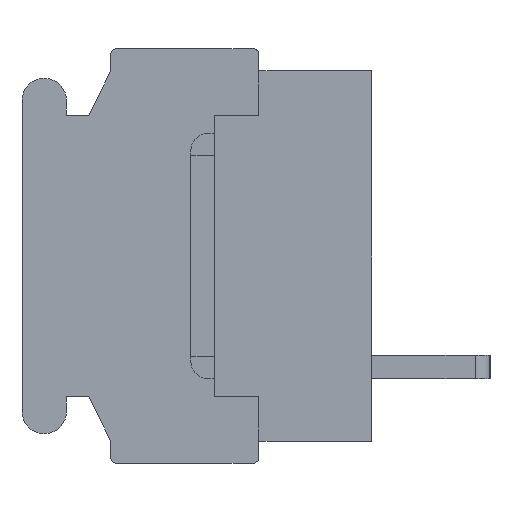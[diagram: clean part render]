
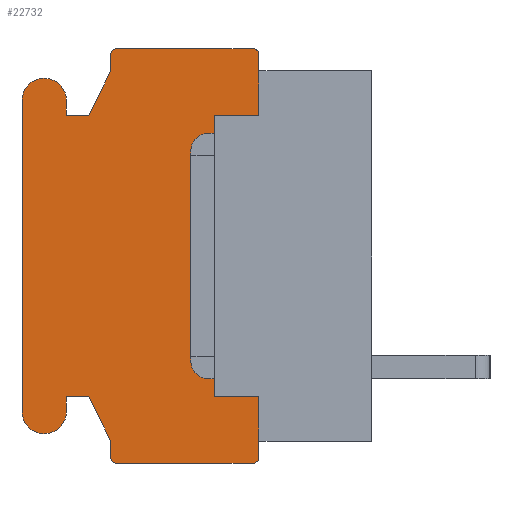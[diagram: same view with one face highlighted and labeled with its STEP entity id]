
A CAD part, left-side view. The second image highlights one B-rep face of the part: STEP entity #22732.
In plain terms, the highlighted planar face has unit normal (-1, 0, 0).
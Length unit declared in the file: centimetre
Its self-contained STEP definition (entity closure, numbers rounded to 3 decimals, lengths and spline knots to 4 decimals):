
#1341=PLANE('',#37308);
#2092=VECTOR('',#24094,1.);
#3489=VECTOR('',#27099,1.);
#3490=VECTOR('',#27100,1.);
#3491=VECTOR('',#27103,1.);
#3492=VECTOR('',#27106,1.);
#3493=VECTOR('',#27107,1.);
#3494=VECTOR('',#27108,1.);
#3495=VECTOR('',#27109,1.);
#3496=VECTOR('',#27112,1.);
#3497=VECTOR('',#27115,1.);
#3498=VECTOR('',#27116,1.);
#3499=VECTOR('',#27117,1.);
#3500=VECTOR('',#27118,1.);
#3501=VECTOR('',#27121,1.);
#3502=VECTOR('',#27124,1.);
#3503=VECTOR('',#27125,1.);
#3504=VECTOR('',#27126,1.);
#3505=VECTOR('',#27127,1.);
#4536=LINE('',#29910,#2092);
#5933=LINE('',#34334,#3489);
#5934=LINE('',#34336,#3490);
#5935=LINE('',#34340,#3491);
#5936=LINE('',#34344,#3492);
#5937=LINE('',#34346,#3493);
#5938=LINE('',#34348,#3494);
#5939=LINE('',#34350,#3495);
#5940=LINE('',#34354,#3496);
#5941=LINE('',#34358,#3497);
#5942=LINE('',#34360,#3498);
#5943=LINE('',#34362,#3499);
#5944=LINE('',#34364,#3500);
#5945=LINE('',#34368,#3501);
#5946=LINE('',#34372,#3502);
#5947=LINE('',#34373,#3503);
#5948=LINE('',#34375,#3504);
#5949=LINE('',#34376,#3505);
#6921=VERTEX_POINT('',#29911);
#6922=VERTEX_POINT('',#29912);
#7016=VERTEX_POINT('',#30175);
#7057=VERTEX_POINT('',#30262);
#8212=VERTEX_POINT('',#34335);
#8213=VERTEX_POINT('',#34337);
#8214=VERTEX_POINT('',#34339);
#8215=VERTEX_POINT('',#34341);
#8216=VERTEX_POINT('',#34343);
#8217=VERTEX_POINT('',#34345);
#8218=VERTEX_POINT('',#34347);
#8219=VERTEX_POINT('',#34349);
#8220=VERTEX_POINT('',#34351);
#8221=VERTEX_POINT('',#34353);
#8222=VERTEX_POINT('',#34355);
#8223=VERTEX_POINT('',#34357);
#8224=VERTEX_POINT('',#34359);
#8225=VERTEX_POINT('',#34361);
#8226=VERTEX_POINT('',#34363);
#8227=VERTEX_POINT('',#34365);
#8228=VERTEX_POINT('',#34367);
#8229=VERTEX_POINT('',#34369);
#8230=VERTEX_POINT('',#34371);
#8231=VERTEX_POINT('',#34374);
#9006=CIRCLE('',#37309,0.02);
#9007=CIRCLE('',#37310,0.02);
#9008=CIRCLE('',#37311,0.075);
#9009=CIRCLE('',#37312,0.075);
#9010=CIRCLE('',#37313,0.02);
#9011=CIRCLE('',#37314,0.02);
#9820=EDGE_CURVE('',#6921,#6922,#4536,.T.);
#11788=EDGE_CURVE('',#8212,#7016,#5933,.T.);
#11789=EDGE_CURVE('',#8213,#7016,#5934,.T.);
#11790=EDGE_CURVE('',#8214,#8213,#9006,.T.);
#11791=EDGE_CURVE('',#8215,#8214,#5935,.T.);
#11792=EDGE_CURVE('',#8216,#8215,#9007,.T.);
#11793=EDGE_CURVE('',#8217,#8216,#5936,.T.);
#11794=EDGE_CURVE('',#8218,#8217,#5937,.T.);
#11795=EDGE_CURVE('',#8219,#8218,#5938,.T.);
#11796=EDGE_CURVE('',#8220,#8219,#5939,.T.);
#11797=EDGE_CURVE('',#8221,#8220,#9008,.T.);
#11798=EDGE_CURVE('',#8222,#8221,#5940,.T.);
#11799=EDGE_CURVE('',#8223,#8222,#9009,.T.);
#11800=EDGE_CURVE('',#8224,#8223,#5941,.T.);
#11801=EDGE_CURVE('',#8225,#8224,#5942,.T.);
#11802=EDGE_CURVE('',#8226,#8225,#5943,.T.);
#11803=EDGE_CURVE('',#8227,#8226,#5944,.T.);
#11804=EDGE_CURVE('',#8228,#8227,#9010,.T.);
#11805=EDGE_CURVE('',#8229,#8228,#5945,.T.);
#11806=EDGE_CURVE('',#8230,#8229,#9011,.T.);
#11807=EDGE_CURVE('',#7057,#8230,#5946,.T.);
#11808=EDGE_CURVE('',#7057,#8231,#5947,.T.);
#11809=EDGE_CURVE('',#8231,#6921,#5948,.T.);
#11810=EDGE_CURVE('',#6922,#8212,#5949,.T.);
#17858=ORIENTED_EDGE('',*,*,#11788,.T.);
#17859=ORIENTED_EDGE('',*,*,#11789,.F.);
#17860=ORIENTED_EDGE('',*,*,#11790,.F.);
#17861=ORIENTED_EDGE('',*,*,#11791,.F.);
#17862=ORIENTED_EDGE('',*,*,#11792,.F.);
#17863=ORIENTED_EDGE('',*,*,#11793,.F.);
#17864=ORIENTED_EDGE('',*,*,#11794,.F.);
#17865=ORIENTED_EDGE('',*,*,#11795,.F.);
#17866=ORIENTED_EDGE('',*,*,#11796,.F.);
#17867=ORIENTED_EDGE('',*,*,#11797,.F.);
#17868=ORIENTED_EDGE('',*,*,#11798,.F.);
#17869=ORIENTED_EDGE('',*,*,#11799,.F.);
#17870=ORIENTED_EDGE('',*,*,#11800,.F.);
#17871=ORIENTED_EDGE('',*,*,#11801,.F.);
#17872=ORIENTED_EDGE('',*,*,#11802,.F.);
#17873=ORIENTED_EDGE('',*,*,#11803,.F.);
#17874=ORIENTED_EDGE('',*,*,#11804,.F.);
#17875=ORIENTED_EDGE('',*,*,#11805,.F.);
#17876=ORIENTED_EDGE('',*,*,#11806,.F.);
#17877=ORIENTED_EDGE('',*,*,#11807,.F.);
#17878=ORIENTED_EDGE('',*,*,#11808,.T.);
#17879=ORIENTED_EDGE('',*,*,#11809,.T.);
#17880=ORIENTED_EDGE('',*,*,#9820,.T.);
#17881=ORIENTED_EDGE('',*,*,#11810,.T.);
#20128=EDGE_LOOP('',(#17858,#17859,#17860,#17861,#17862,#17863,#17864,#17865,
#17866,#17867,#17868,#17869,#17870,#17871,#17872,#17873,#17874,#17875,#17876,
#17877,#17878,#17879,#17880,#17881));
#21472=FACE_BOUND('',#20128,.T.);
#22732=ADVANCED_FACE('',(#21472),#1341,.F.);
#24094=DIRECTION('',(0.,0.,1.));
#27098=DIRECTION('',(1.,0.,0.));
#27099=DIRECTION('',(0.,0.,1.));
#27100=DIRECTION('',(0.,0.,-1.));
#27101=DIRECTION('',(1.,0.,0.));
#27102=DIRECTION('',(0.,0.,-0.02));
#27103=DIRECTION('',(0.,-1.,0.));
#27104=DIRECTION('',(1.,0.,0.));
#27105=DIRECTION('',(0.,0.,-0.02));
#27106=DIRECTION('',(0.,0.,1.));
#27107=DIRECTION('',(0.,-0.447,0.894));
#27108=DIRECTION('',(0.,-1.,0.));
#27109=DIRECTION('',(0.,0.,-1.));
#27110=DIRECTION('',(1.,0.,0.));
#27111=DIRECTION('',(0.,0.,-0.075));
#27112=DIRECTION('',(0.,0.,1.));
#27113=DIRECTION('',(1.,0.,0.));
#27114=DIRECTION('',(0.,0.,-0.075));
#27115=DIRECTION('',(0.,0.,-1.));
#27116=DIRECTION('',(0.,1.,0.));
#27117=DIRECTION('',(0.,0.447,0.894));
#27118=DIRECTION('',(0.,0.,1.));
#27119=DIRECTION('',(1.,0.,0.));
#27120=DIRECTION('',(0.,0.,-0.02));
#27121=DIRECTION('',(0.,1.,0.));
#27122=DIRECTION('',(1.,0.,0.));
#27123=DIRECTION('',(0.,0.,-0.02));
#27124=DIRECTION('',(0.,0.,-1.));
#27125=DIRECTION('',(0.,0.,1.));
#27126=DIRECTION('',(0.,1.,0.));
#27127=DIRECTION('',(0.,-1.,0.));
#29910=CARTESIAN_POINT('',(-0.762,0.53,0.));
#29911=CARTESIAN_POINT('',(-0.762,0.53,-0.475));
#29912=CARTESIAN_POINT('',(-0.762,0.53,0.475));
#30175=CARTESIAN_POINT('',(-0.762,0.38,0.625));
#30262=CARTESIAN_POINT('',(-0.762,0.38,-0.625));
#34333=CARTESIAN_POINT('',(-0.762,0.6059,0.));
#34334=CARTESIAN_POINT('',(-0.762,0.38,0.275));
#34335=CARTESIAN_POINT('',(-0.762,0.38,0.475));
#34336=CARTESIAN_POINT('',(-0.762,0.38,0.68));
#34337=CARTESIAN_POINT('',(-0.762,0.38,0.68));
#34338=CARTESIAN_POINT('',(-0.762,0.4,0.68));
#34339=CARTESIAN_POINT('',(-0.762,0.4,0.7));
#34340=CARTESIAN_POINT('',(-0.762,0.86,0.7));
#34341=CARTESIAN_POINT('',(-0.762,0.86,0.7));
#34342=CARTESIAN_POINT('',(-0.762,0.86,0.68));
#34343=CARTESIAN_POINT('',(-0.762,0.88,0.68));
#34344=CARTESIAN_POINT('',(-0.762,0.88,0.625));
#34345=CARTESIAN_POINT('',(-0.762,0.88,0.625));
#34346=CARTESIAN_POINT('',(-0.762,0.955,0.475));
#34347=CARTESIAN_POINT('',(-0.762,0.955,0.475));
#34348=CARTESIAN_POINT('',(-0.762,1.03,0.475));
#34349=CARTESIAN_POINT('',(-0.762,1.03,0.475));
#34350=CARTESIAN_POINT('',(-0.762,1.03,0.525));
#34351=CARTESIAN_POINT('',(-0.762,1.03,0.525));
#34352=CARTESIAN_POINT('',(-0.762,1.105,0.525));
#34353=CARTESIAN_POINT('',(-0.762,1.18,0.525));
#34354=CARTESIAN_POINT('',(-0.762,1.18,-0.525));
#34355=CARTESIAN_POINT('',(-0.762,1.18,-0.525));
#34356=CARTESIAN_POINT('',(-0.762,1.105,-0.525));
#34357=CARTESIAN_POINT('',(-0.762,1.03,-0.525));
#34358=CARTESIAN_POINT('',(-0.762,1.03,-0.475));
#34359=CARTESIAN_POINT('',(-0.762,1.03,-0.475));
#34360=CARTESIAN_POINT('',(-0.762,0.955,-0.475));
#34361=CARTESIAN_POINT('',(-0.762,0.955,-0.475));
#34362=CARTESIAN_POINT('',(-0.762,0.88,-0.625));
#34363=CARTESIAN_POINT('',(-0.762,0.88,-0.625));
#34364=CARTESIAN_POINT('',(-0.762,0.88,-0.68));
#34365=CARTESIAN_POINT('',(-0.762,0.88,-0.68));
#34366=CARTESIAN_POINT('',(-0.762,0.86,-0.68));
#34367=CARTESIAN_POINT('',(-0.762,0.86,-0.7));
#34368=CARTESIAN_POINT('',(-0.762,0.4,-0.7));
#34369=CARTESIAN_POINT('',(-0.762,0.4,-0.7));
#34370=CARTESIAN_POINT('',(-0.762,0.4,-0.68));
#34371=CARTESIAN_POINT('',(-0.762,0.38,-0.68));
#34372=CARTESIAN_POINT('',(-0.762,0.38,-0.625));
#34373=CARTESIAN_POINT('',(-0.762,0.38,-0.275));
#34374=CARTESIAN_POINT('',(-0.762,0.38,-0.475));
#34375=CARTESIAN_POINT('',(-0.762,0.5304,-0.475));
#34376=CARTESIAN_POINT('',(-0.762,0.5304,0.475));
#37308=AXIS2_PLACEMENT_3D('',#34333,#27098,$);
#37309=AXIS2_PLACEMENT_3D('',#34338,#27101,#27102);
#37310=AXIS2_PLACEMENT_3D('',#34342,#27104,#27105);
#37311=AXIS2_PLACEMENT_3D('',#34352,#27110,#27111);
#37312=AXIS2_PLACEMENT_3D('',#34356,#27113,#27114);
#37313=AXIS2_PLACEMENT_3D('',#34366,#27119,#27120);
#37314=AXIS2_PLACEMENT_3D('',#34370,#27122,#27123);
